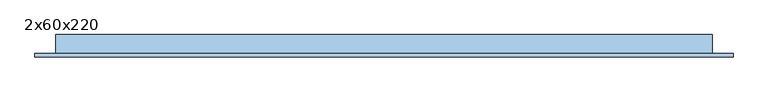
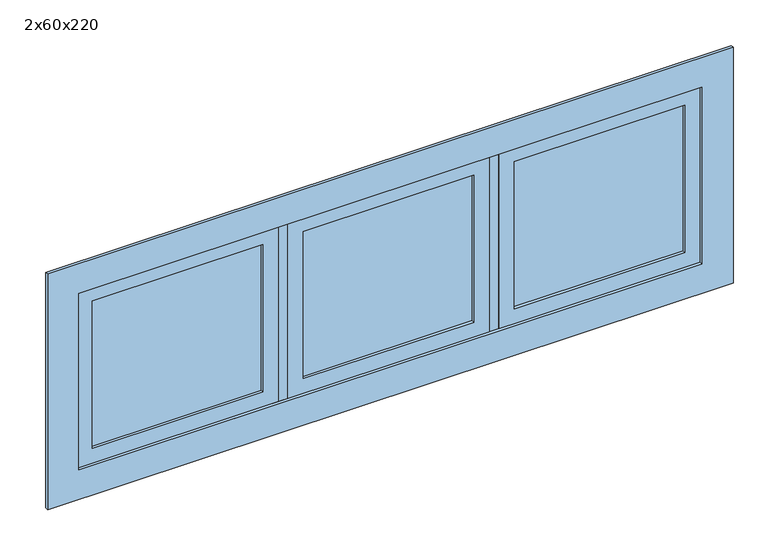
"""IFC4 building model written with IfcOpenShell, lengths in millimetres: window geometry, JANELA COM ESQUADRIA MAXIM-AR - 3 FOLHAS : 2x60x220."""

import ifcopenshell
import ifcopenshell.guid

model = None  # the IFC model being written
_history = None  # IfcOwnerHistory: only IFC2X3 demands one
_inside = {}  # id of a spatial element -> (the spatial element, [elements in it])
_under = {}  # id of a project, library or spatial element -> (it, [spatial elements below it])
_declared = {}  # id of a project -> (the project, [libraries it declares])
_typed = {}  # id of a type object -> (the type object, [elements of that type])
_made_of = {}  # id of a material, layer set ... -> (it, [elements and type objects made of it])


def new_model(schema):
    """Start an empty IFC model of exactly this schema.

    Asked for "IFC4X3", IfcOpenShell would pick the latest addendum, in which some entities
    have other attributes; the version numbers below select the first issue.
    IFC2X3 requires an IfcOwnerHistory on every rooted entity: one is made here for all.
    """
    global model, _history
    if schema == "IFC4X3":
        model = ifcopenshell.file(schema_version=(4, 3, 0, 0))
    else:
        model = ifcopenshell.file(schema=schema)
    _inside.clear()
    _under.clear()
    _declared.clear()
    _typed.clear()
    _made_of.clear()
    _history = None
    if model.schema == "IFC2X3":
        org = make("IfcOrganization", Name="unknown")
        user = make(
            "IfcPersonAndOrganization",
            ThePerson=make("IfcPerson", FamilyName="unknown"),
            TheOrganization=org,
        )
        app = make(
            "IfcApplication",
            ApplicationDeveloper=org,
            Version="unknown",
            ApplicationFullName="unknown",
            ApplicationIdentifier="unknown",
        )
        _history = make(
            "IfcOwnerHistory",
            OwningUser=user,
            OwningApplication=app,
            ChangeAction="ADDED",
            CreationDate=0,
        )
    return model


def make(cls, **values):
    """One entity of the class cls with the attributes given. An attribute that is None is left unset."""
    return model.create_entity(
        cls, **{name: value for name, value in values.items() if value is not None}
    )


def rooted(cls, **values):
    """An entity with a GlobalId (a new one), such as an element, a storey or a relation."""
    return make(cls, GlobalId=ifcopenshell.guid.new(), OwnerHistory=_history, **values)


def si_unit(unit_type, name, prefix=None):
    """IfcSIUnit, for example si_unit("LENGTHUNIT", "METRE", prefix="MILLI")."""
    return make("IfcSIUnit", UnitType=unit_type, Prefix=prefix, Name=name)


def assignment(units):
    """IfcUnitAssignment: the units of a project."""
    return None if units is None else make("IfcUnitAssignment", Units=units)


def point(xyz):
    """IfcCartesianPoint."""
    return None if xyz is None else make("IfcCartesianPoint", Coordinates=xyz)


def direction(xyz):
    """IfcDirection."""
    return None if xyz is None else make("IfcDirection", DirectionRatios=xyz)


def frame(location, z_axis=None, x_axis=None):
    """IfcAxis2Placement3D, a coordinate frame: its origin and axes. An axis left out is left unset."""
    return make(
        "IfcAxis2Placement3D",
        Location=point(location),
        Axis=direction(z_axis),
        RefDirection=direction(x_axis),
    )


def origin():
    """The frame at (0, 0, 0) with its axes left unset."""
    return frame((0.0, 0.0, 0.0))


def place(relative_to, where):
    """IfcLocalPlacement: puts the frame where relative to a parent placement (None: the world)."""
    return make(
        "IfcLocalPlacement", PlacementRelTo=relative_to, RelativePlacement=where
    )


def context(
    kind, dimensions, precision=None, world=None, true_north=None, identifier=None
):
    """IfcGeometricRepresentationContext, for example the 3D "Model" context."""
    return make(
        "IfcGeometricRepresentationContext",
        ContextIdentifier=identifier,
        ContextType=kind,
        CoordinateSpaceDimension=dimensions,
        Precision=precision,
        WorldCoordinateSystem=world,
        TrueNorth=true_north,
    )


def project(units=None, contexts=None):
    """IfcProject with its units and contexts."""
    return rooted(
        "IfcProject",
        Name="project",
        RepresentationContexts=contexts,
        UnitsInContext=assignment(units),
    )


def spatial(cls, under=None, at=None, **own):
    """A site, building, storey or space (cls), placed at a placement, below another one or the project."""
    s = rooted(cls, ObjectPlacement=at, **own)
    if under is not None:
        _under.setdefault(under.id(), (under, []))[1].append(s)
    return s


def polyline(points):
    """IfcPolyline through the points."""
    return make("IfcPolyline", Points=[point(p) for p in points])


def outline(outer, holes=None, kind="AREA"):
    """IfcArbitraryClosedProfileDef: a profile drawn as a closed curve; with holes, ...WithVoids."""
    if holes is None:
        return make("IfcArbitraryClosedProfileDef", ProfileType=kind, OuterCurve=outer)
    return make(
        "IfcArbitraryProfileDefWithVoids",
        ProfileType=kind,
        OuterCurve=outer,
        InnerCurves=holes,
    )


def extrude(swept, where, along, depth):
    """IfcExtrudedAreaSolid: the profile swept, set in the frame where, extruded along a direction by depth."""
    return make(
        "IfcExtrudedAreaSolid",
        SweptArea=swept,
        Position=where,
        ExtrudedDirection=direction(along),
        Depth=depth,
    )


def shape(context_of_items, identifier, shape_type, items):
    """IfcShapeRepresentation: the items that make up one representation, for example the "Body"."""
    return make(
        "IfcShapeRepresentation",
        ContextOfItems=context_of_items,
        RepresentationIdentifier=identifier,
        RepresentationType=shape_type,
        Items=items,
    )


def source(mapping_origin, context_of_items, identifier, shape_type, items):
    """IfcRepresentationMap: a shape defined once, which mapped items show again and again."""
    return make(
        "IfcRepresentationMap",
        MappingOrigin=mapping_origin,
        MappedRepresentation=shape(context_of_items, identifier, shape_type, items),
    )


def transform(
    local_origin,
    x_axis=None,
    y_axis=None,
    z_axis=None,
    scale=None,
    scale2=None,
    scale3=None,
    uniform=True,
):
    """IfcCartesianTransformationOperator3D, or its non-uniform kind. x_axis, y_axis, z_axis: its Axis1, 2, 3."""
    if uniform:
        return make(
            "IfcCartesianTransformationOperator3D",
            Axis1=direction(x_axis),
            Axis2=direction(y_axis),
            LocalOrigin=point(local_origin),
            Scale=scale,
            Axis3=direction(z_axis),
        )
    return make(
        "IfcCartesianTransformationOperator3DnonUniform",
        Axis1=direction(x_axis),
        Axis2=direction(y_axis),
        LocalOrigin=point(local_origin),
        Scale=scale,
        Axis3=direction(z_axis),
        Scale2=scale2,
        Scale3=scale3,
    )


def mapped(mapping_source, mapping_target):
    """IfcMappedItem: shows the shape of a source again, moved by a transform."""
    return make(
        "IfcMappedItem", MappingSource=mapping_source, MappingTarget=mapping_target
    )


def made_of(thing, what):
    """Note that an element or type object is made of a material, layer set ...; save() writes the relation."""
    if what is not None:
        _made_of.setdefault(what.id(), (what, []))[1].append(thing)
    return thing


def element(
    cls,
    number,
    at=None,
    inside=None,
    cuts=None,
    type_object=None,
    material=None,
    context=None,
    identifier="Body",
    shape_type=None,
    held_by="IfcProductDefinitionShape",
    body=None,
    shapes=None,
    **own,
):
    """One element of the class cls, such as IfcWall. Its Tag is "e" and its number.

    at: its placement. inside: the storey or other place that contains it. cuts: it is an
    opening in that element (IfcRelVoidsElement). A single representation is given by context,
    identifier, shape_type and body (its items); several are given by shapes. held_by: the class
    of the entity that holds the representations. save() writes the other relations.
    """
    e = rooted(cls, Tag="e%d" % number, ObjectPlacement=at, **own)
    if body is not None:
        shapes = [shape(context, identifier, shape_type, body)]
    if shapes is not None:
        e.Representation = make(held_by, Representations=shapes)
    if inside is not None:
        _inside.setdefault(inside.id(), (inside, []))[1].append(e)
    if cuts is not None:
        rooted(
            "IfcRelVoidsElement", RelatingBuildingElement=cuts, RelatedOpeningElement=e
        )
    if type_object is not None:
        _typed.setdefault(type_object.id(), (type_object, []))[1].append(e)
    return made_of(e, material)


def aggregate(whole, parts):
    """IfcRelAggregates: a whole, such as a stair, and the parts it consists of."""
    return rooted("IfcRelAggregates", RelatingObject=whole, RelatedObjects=parts)


def save(model, path):
    """Write the relations noted so far, then the file.

    IfcRelAggregates (storeys below a building ...), IfcRelContainedInSpatialStructure (elements
    in a storey), IfcRelDefinesByType, IfcRelAssociatesMaterial and IfcRelDeclares: one each for
    every whole, place, type object, material and project.
    """
    for whole, parts in _under.values():
        aggregate(whole, parts)
    for where, things in _inside.values():
        rooted(
            "IfcRelContainedInSpatialStructure",
            RelatedElements=things,
            RelatingStructure=where,
        )
    for kind, things in _typed.values():
        rooted("IfcRelDefinesByType", RelatedObjects=things, RelatingType=kind)
    for what, things in _made_of.values():
        rooted("IfcRelAssociatesMaterial", RelatedObjects=things, RelatingMaterial=what)
    for by, libraries in _declared.values():
        rooted("IfcRelDeclares", RelatingContext=by, RelatedDefinitions=libraries)
    model.write(path)


def window_2x60x220_bcaba8dd(model_context):
    return source(origin(), model_context, "Body", "SweptSolid", [
        extrude(outline(polyline([(-143.9297824, -30.3758395), (402.7368843, -30.3758395), (402.7368843, -36.3758395), (-143.9297824, -36.3758395), (-143.9297824, -30.3758395)])), frame((0.0, 0.0, 1550.0), z_axis=(0.0, 0.0, 1.0), x_axis=(1.0, 0.0, 0.0)), (0.0, 0.0, 1.0), 500.0),
        extrude(outline(polyline([(2100.0, -193.9297824), (1500.0, -193.9297824), (1500.0, 452.7368843), (2100.0, 452.7368843), (2100.0, -193.9297824)]), holes=[polyline([(2050.0, -143.9297824), (2050.0, 402.7368843), (1550.0, 402.7368843), (1550.0, -143.9297824), (2050.0, -143.9297824)])]), frame((0.0, -45.8758395, 0.0), z_axis=(0.0, 1.0, 0.0), x_axis=(0.0, 0.0, 1.0)), (0.0, 0.0, 1.0), 25.0),
        extrude(outline(polyline([(532.7368843, -30.3758395), (1079.4035509, -30.3758395), (1079.4035509, -36.3758395), (532.7368843, -36.3758395), (532.7368843, -30.3758395)])), frame((0.0, 0.0, 1550.0), z_axis=(0.0, 0.0, 1.0), x_axis=(1.0, 0.0, 0.0)), (0.0, 0.0, 1.0), 500.0),
        extrude(outline(polyline([(2100.0, 482.7368843), (1500.0, 482.7368843), (1500.0, 1129.4035509), (2100.0, 1129.4035509), (2100.0, 482.7368843)]), holes=[polyline([(2050.0, 532.7368843), (2050.0, 1079.4035509), (1550.0, 1079.4035509), (1550.0, 532.7368843), (2050.0, 532.7368843)])]), frame((0.0, -45.8758395, 0.0), z_axis=(0.0, 1.0, 0.0), x_axis=(0.0, 0.0, 1.0)), (0.0, 0.0, 1.0), 25.0),
        extrude(outline(polyline([(-820.5964491, -30.3758395), (-273.9297824, -30.3758395), (-273.9297824, -36.3758395), (-820.5964491, -36.3758395), (-820.5964491, -30.3758395)])), frame((0.0, 0.0, 1550.0), z_axis=(0.0, 0.0, 1.0), x_axis=(1.0, 0.0, 0.0)), (0.0, 0.0, 1.0), 500.0),
        extrude(outline(polyline([(2100.0, -870.5964491), (1500.0, -870.5964491), (1500.0, -223.9297824), (2100.0, -223.9297824), (2100.0, -870.5964491)]), holes=[polyline([(2050.0, -820.5964491), (2050.0, -273.9297824), (1550.0, -273.9297824), (1550.0, -820.5964491), (2050.0, -820.5964491)])]), frame((0.0, -45.8758395, 0.0), z_axis=(0.0, 1.0, 0.0), x_axis=(0.0, 0.0, 1.0)), (0.0, 0.0, 1.0), 25.0),
        extrude(outline(polyline([(1400.0, -970.5964491), (1400.0, 1229.4035509), (2200.0, 1229.4035509), (2200.0, -970.5964491), (1400.0, -970.5964491)]), holes=[polyline([(2100.0, -870.5964491), (2100.0, 1129.4035509), (1500.0, 1129.4035509), (1500.0, -870.5964491), (2100.0, -870.5964491)])]), frame((0.0, -55.8758395, 0.0), z_axis=(0.0, 1.0, 0.0), x_axis=(0.0, 0.0, 1.0)), (0.0, 0.0, 1.0), 10.0),
        extrude(outline(polyline([(452.7368843, -45.8758395), (452.7368843, 14.1241605), (482.7368843, 14.1241605), (482.7368843, -45.8758395), (452.7368843, -45.8758395)])), frame((0.0, 0.0, 1500.0), z_axis=(0.0, 0.0, 1.0), x_axis=(1.0, 0.0, 0.0)), (0.0, 0.0, 1.0), 600.0),
        extrude(outline(polyline([(-223.9297824, -45.8758395), (-223.9297824, 14.1241605), (-193.9297824, 14.1241605), (-193.9297824, -45.8758395), (-223.9297824, -45.8758395)])), frame((0.0, 0.0, 1500.0), z_axis=(0.0, 0.0, 1.0), x_axis=(1.0, 0.0, 0.0)), (0.0, 0.0, 1.0), 600.0),
        extrude(outline(polyline([(-905.5964491, 14.1241605), (-870.5964491, 14.1241605), (-870.5964491, -45.8758395), (-905.5964491, -45.8758395), (-905.5964491, 14.1241605)])), frame((0.0, 0.0, 1500.0), z_axis=(0.0, 0.0, 1.0), x_axis=(1.0, 0.0, 0.0)), (0.0, 0.0, 1.0), 600.0),
        extrude(outline(polyline([(1129.4035509, 14.1241605), (1164.4035509, 14.1241605), (1164.4035509, -45.8758395), (1129.4035509, -45.8758395), (1129.4035509, 14.1241605)])), frame((0.0, 0.0, 1500.0), z_axis=(0.0, 0.0, 1.0), x_axis=(1.0, 0.0, 0.0)), (0.0, 0.0, 1.0), 600.0),
        extrude(outline(polyline([(-905.5964491, 14.1241605), (1164.4035509, 14.1241605), (1164.4035509, -45.8758395), (-905.5964491, -45.8758395), (-905.5964491, 14.1241605)])), frame((0.0, 0.0, 1465.0), z_axis=(0.0, 0.0, 1.0), x_axis=(1.0, 0.0, 0.0)), (0.0, 0.0, 1.0), 35.0),
        extrude(outline(polyline([(-905.5964491, 14.1241605), (1164.4035509, 14.1241605), (1164.4035509, -45.8758395), (-905.5964491, -45.8758395), (-905.5964491, 14.1241605)])), frame((0.0, 0.0, 2100.0), z_axis=(0.0, 0.0, 1.0), x_axis=(1.0, 0.0, 0.0)), (0.0, 0.0, 1.0), 35.0),
    ])


if __name__ == "__main__":
    model = new_model("IFC4")
    model_context = context("Model", 3, world=origin())
    ifc_project = project(units=[si_unit("LENGTHUNIT", "METRE", prefix="MILLI")], contexts=[model_context])
    site = spatial("IfcSite", under=ifc_project)
    building = spatial("IfcBuilding", under=site)
    placement = place(None, origin())
    window_2x60x220_shape = window_2x60x220_bcaba8dd(model_context)
    element("IfcWindow", 1, ObjectType="JANELA COM ESQUADRIA MAXIM-AR - 3 FOLHAS : 2x60x220", at=placement, inside=building, context=model_context, shape_type="MappedRepresentation", body=[
        mapped(window_2x60x220_shape, transform((0.0, 0.0, 0.0), x_axis=(1.0, 0.0, 0.0), y_axis=(0.0, 1.0, 0.0), z_axis=(0.0, 0.0, 1.0))),
    ])
    save(model, "model.ifc")
